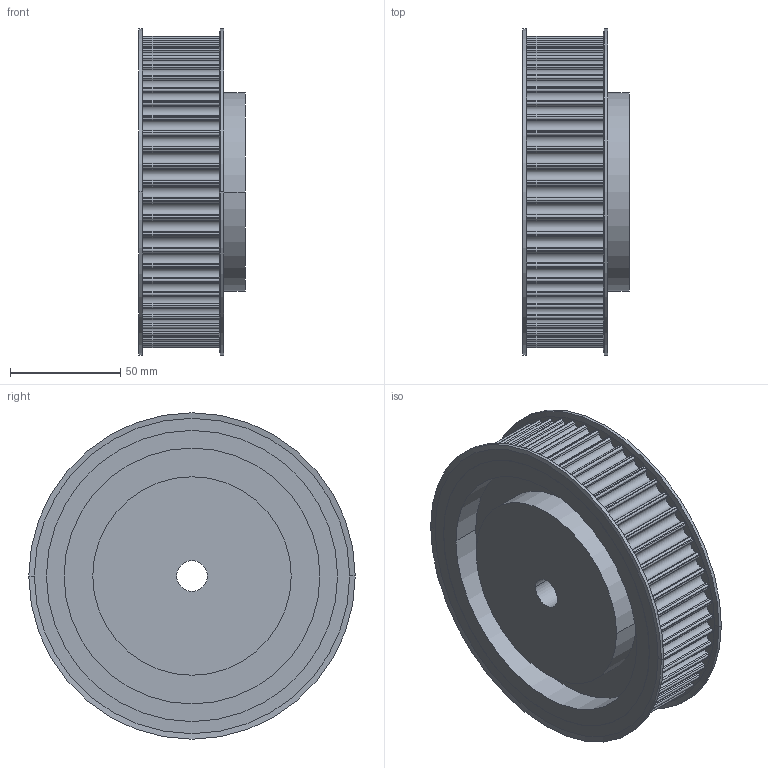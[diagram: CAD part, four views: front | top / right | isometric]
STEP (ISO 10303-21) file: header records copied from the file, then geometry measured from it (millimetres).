
FILE_DESCRIPTION( ( '' ), '1' );
FILE_NAME( 'C:/Users/Stangenbergd/Documents/CAD_Step/1/17422800.stp', '2021-10-19T10:10:59', ( '' ), ( '' ), ' ', ' ', ' ' );
FILE_SCHEMA( ( 'CONFIG_CONTROL_DESIGN' ) );
Length unit declared in the file: millimetre
Products named in the file (1): 1
Bounding box: 48.2 x 148 x 148 mm (x, y, z)
Volume: 516767.7 mm3; surface area: 84605.9 mm2
Topology: 1 solids, 1 shells, 372 faces, 1078 edges, 716 vertices
Faces by surface type: cylinder 242, plane 122, cone 8
Entity records: 12518 total; most frequent: DIRECTION 2316, CARTESIAN_POINT 2167, ORIENTED_EDGE 2156, EDGE_CURVE 1078, AXIS2_PLACEMENT_3D 865, VERTEX_POINT 716, LINE 586, VECTOR 586
